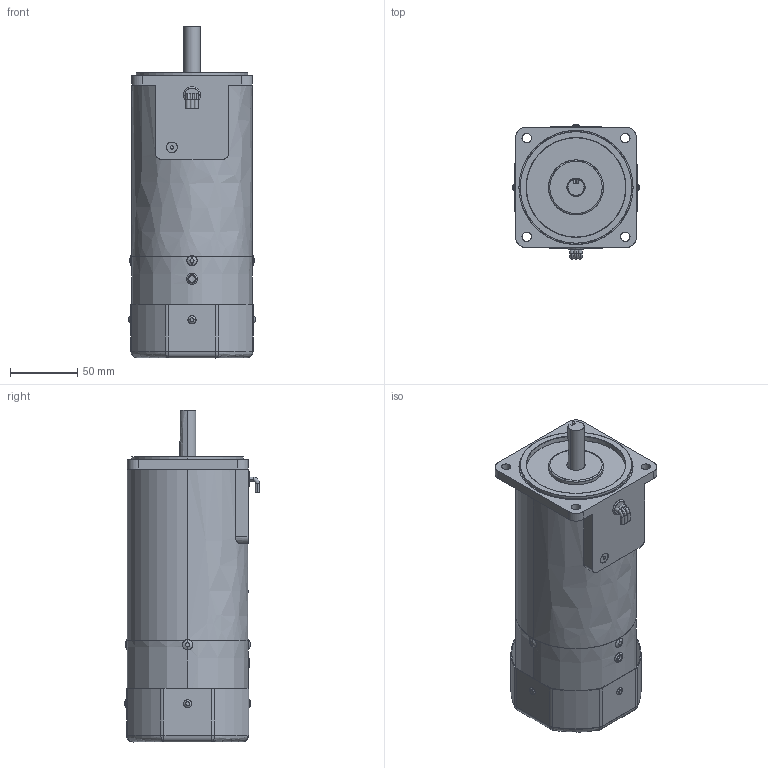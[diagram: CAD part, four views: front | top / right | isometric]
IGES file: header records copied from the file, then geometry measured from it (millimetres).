
Start section: SolidWorks IGES file using analytic representation for surfaces
Bounding box: 94 x 100.5 x 247.5 mm (x, y, z)
Surface area: 194625 mm2 (no closed solid volume)
Topology: 0 solids, 0 shells, 283 faces, 6055 edges, 6039 vertices
Faces by surface type: revolution 158, bspline 125
